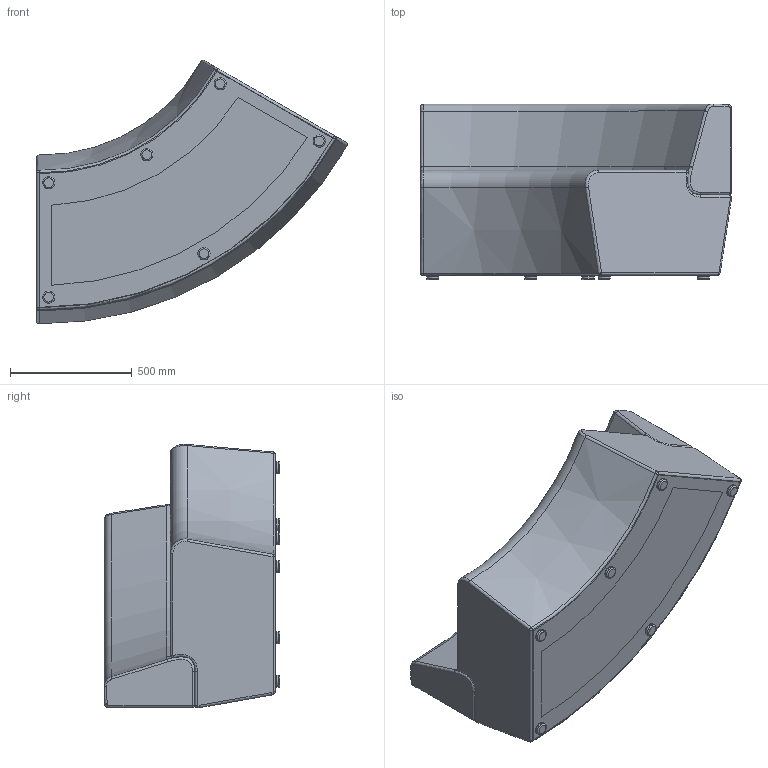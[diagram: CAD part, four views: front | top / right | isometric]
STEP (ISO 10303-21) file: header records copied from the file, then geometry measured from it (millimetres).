
FILE_DESCRIPTION(/* description */ (''),/* implementation_level */ '2;1');
FILE_NAME(/* name */ 'Opoho 60 Concave Seater.step',/* time_stamp */ '2025-06-12T13:59:19+12:00',/* author */ (''),/* organization */ (''),/* preprocessor_version */ 'ST-DEVELOPER v20.1',/* originating_system */ 'Autodesk Translation Framework v14.10.0.0',/* authorisation */ '');
FILE_SCHEMA (('AUTOMOTIVE_DESIGN { 1 0 10303 214 3 1 1 }'));
Length unit declared in the file: millimetre
Products named in the file (32): Opoho 60 Concave Seater; Frame; Seat; Seat Battens; Seat Battens Rear Group; Seat Battens Rear Section; Seat Battens rear; Seat Battens Front Group; Seat Battens Front Section; Seat Battens Front (1); Seat Sections; Seat Sections (1); Seat Section Ends; Seat Horizontal Bracing (1); Seat Horizontal Bracing; Base; Back; Back Horizontal Bracing; Back Horizontal Bracing top; Back Horizontal Bracing Base; Back Battens; Back Battens Section; Back Battens (1); Back Sections (1); Back Sections; MDF; MDF Seat Back; MDF Seat Front; MDF Back Front bottom; MDF Back Front Top; MDF Back Back; Upholstery and feet
Assembly tree (47 placements, depth 7):
  Opoho 60 Concave Seater
    Frame
      Seat
        Seat Battens
          Seat Battens Rear Group
            Seat Battens Rear Section  x3
              Seat Battens rear
          Seat Battens Front Group
            Seat Battens Front Section  x3
              Seat Battens Front (1)
        Seat Sections
          Seat Sections (1)  x2
          Seat Section Ends  x2
        Seat Horizontal Bracing (1)
          Seat Horizontal Bracing
          Base
      Back
        Back Horizontal Bracing
          Back Horizontal Bracing top
          Back Horizontal Bracing Base
        Back Battens
          Back Battens Section  x3
            Back Battens (1)
        Back Sections (1)
          Back Sections  x5
    MDF
      MDF Seat Back
      MDF Seat Front
      MDF Back Front bottom
      MDF Back Front Top
      MDF Back Back
    Upholstery and feet
Bounding box: 1275.75 x 721.01 x 1081.26 mm (x, y, z)
Volume: 440512742.3 mm3; surface area: 13239288.8 mm2
Topology: 47 solids, 47 shells, 411 faces, 860 edges, 543 vertices
Faces by surface type: plane 275, cylinder 47, bspline 29, torus 24, cone 18, sphere 18
Full cylindrical faces by diameter (mm): 50 x6
Entity records: 8583 total; most frequent: CARTESIAN_POINT 2551, DIRECTION 1229, ORIENTED_EDGE 1006, EDGE_CURVE 503, AXIS2_PLACEMENT_3D 493, VERTEX_POINT 305, EDGE_LOOP 248, FACE_OUTER_BOUND 244
